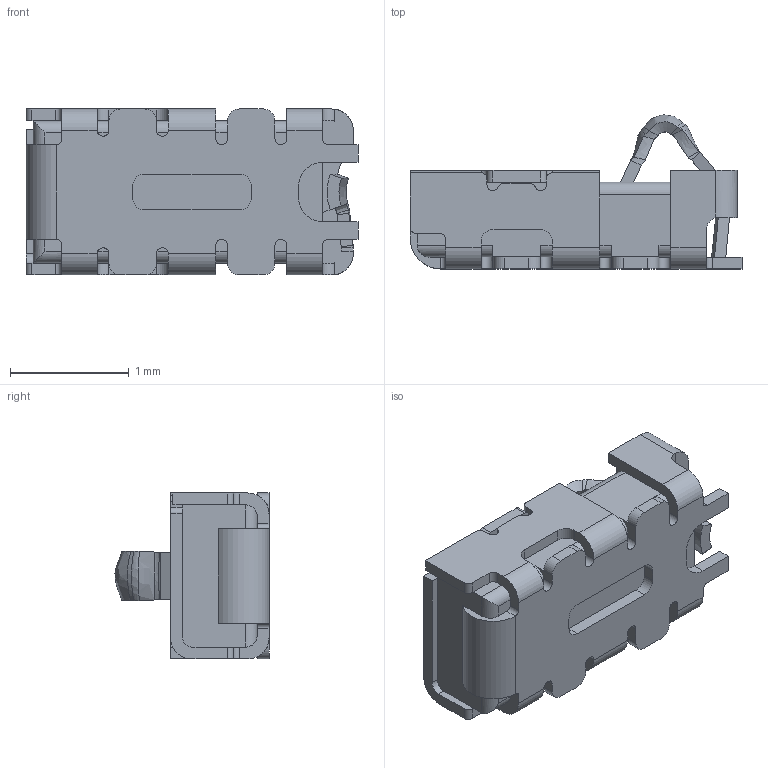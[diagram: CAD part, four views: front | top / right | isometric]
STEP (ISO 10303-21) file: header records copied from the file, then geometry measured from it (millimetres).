
FILE_DESCRIPTION((''),'2;1');
FILE_NAME('3D-2014007-00-00_ASM','2022-04-25T',('TPS'),(''),'CREO PARAMETRIC BY PTC INC, 2015290','CREO PARAMETRIC BY PTC INC, 2015290','');
FILE_SCHEMA(('CONFIG_CONTROL_DESIGN'));
Products named in the file (2): 3D-2014007-C-000; 3D-2014007-00-00_ASM
Assembly tree (1 placements, depth 2):
  3D-2014007-00-00_ASM
    3D-2014007-C-000
Bounding box: 2.8 x 1.3 x 1.4 mm (x, y, z)
Volume: 2.7 mm3; surface area: 17.1 mm2
Topology: 1 solids, 1 shells, 276 faces, 760 edges, 487 vertices
Faces by surface type: plane 131, cylinder 82, bspline 60, cone 3
Entity records: 10733 total; most frequent: CARTESIAN_POINT 3982, ORIENTED_EDGE 1520, DIRECTION 1221, EDGE_CURVE 760, VERTEX_POINT 487, VECTOR 457, LINE 457, AXIS2_PLACEMENT_3D 382
